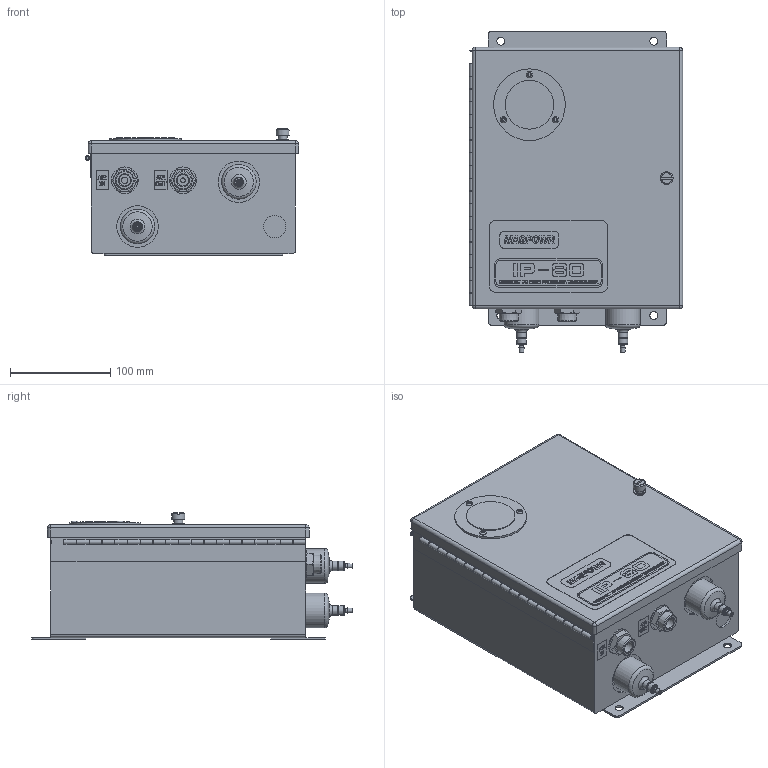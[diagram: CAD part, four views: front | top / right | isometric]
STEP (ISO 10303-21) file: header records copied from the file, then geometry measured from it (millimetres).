
FILE_DESCRIPTION((''),'2;1');
FILE_NAME('J:\WIP\Magpowr WEB\3D (Models)\Tension Controls\Presssure Transducer\IP-80\IP-80.stp','2012-10-25T10:38:27',('lzuniga'),(''),'Autodesk Inventor 2012','Autodesk Inventor 2012','');
FILE_SCHEMA(('AUTOMOTIVE_DESIGN { 1 0 10303 214 1 1 1 1 }'));
Length unit declared in the file: inch
Products named in the file (1): IP-80
Bounding box: 212.23 x 319.4 x 126.49 mm (x, y, z)
Volume: 5934753.1 mm3; surface area: 241292.3 mm2
Topology: 1 solids, 1 shells, 1088 faces, 2759 edges, 1820 vertices
Faces by surface type: plane 698, bspline 221, cylinder 134, torus 17, cone 14, sphere 4
Full cylindrical faces by diameter (mm): 2.032 x1, 2.642 x22, 4.064 x2, 4.572 x1, 4.763 x20, 6.35 x4, 7.938 x6, 8.636 x1, 8.89 x2, 9.525 x4, 11.43 x2, 11.684 x1, 12.7 x1, 22.225 x1, 26.568 x2, 34.417 x2, 41.275 x2, 48.514 x1, 71.374 x1
Entity records: 34079 total; most frequent: CARTESIAN_POINT 9087, ORIENTED_EDGE 5340, DIRECTION 4248, EDGE_CURVE 2670, VECTOR 1912, LINE 1912, VERTEX_POINT 1806, EDGE_LOOP 1356
